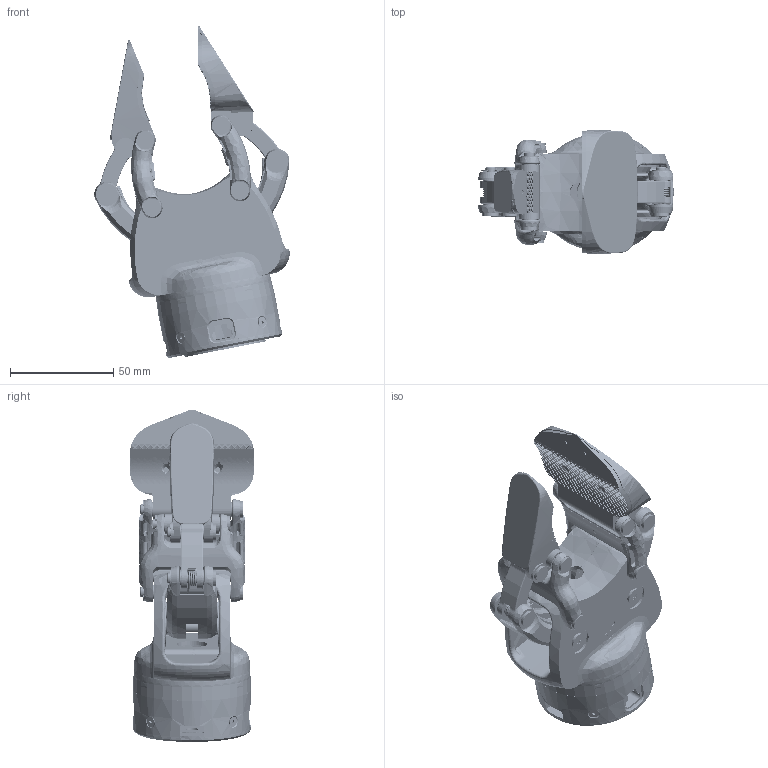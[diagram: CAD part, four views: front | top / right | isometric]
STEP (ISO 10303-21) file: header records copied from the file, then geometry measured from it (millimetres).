
FILE_DESCRIPTION (( 'STEP AP214' ), '1' );
FILE_NAME ('OP1-夥厙耀倰.STEP', '2026-03-16T11:10:02', ( '' ), ( '' ), 'SwSTEP 2.0', 'SolidWorks 2022', '' );
FILE_SCHEMA (( 'AUTOMOTIVE_DESIGN' ));
Length unit declared in the file: millimetre
Products named in the file (49): 220000054701__X2_626d7c27_X0_-0920-_X2_4fee6a21_X0__1; 220000053701__X2_858459345185516d89d2_X0_M2.5-5_X2_5934_X0_5_X2_539a_X0_0.8-0920-_X2_4fee6a21_X0_; 220000054001_JIS B 2804 _X2_4e0d950894a2_X0_E_X2_578b8f74752863215708_X0_-0920-_X2_4fee6a21_X0_; _X2_5bbd624b638c_X0_-_X2_4fee6a21_X0_; 260000001701__X2_591659577b526ce85851_X0__240923-V1-_X2_4fee6a21_X0_; 220000054701__X2_626d7c27_X0_-0920-_X2_4fee6a21_X0__1_1; _X2_4e0a7bb14f53_X0_-2024.09.26-_X2_4fee6a21_X0_; _X2_590d4ef6_X0_ _X2_7a84624b638c8fde6746_X0_^230000190601__X2_7a84624b638c8fde6746_X0_0915-0920-_X2_4fee6a21_X0_; 230000190901__X2_4e2d8fde6746_X0_0915-0920-_X2_4fee6a21_X0_; 220000055201__X2_6df16c9f74038f74627f_X0_C-E696ZZ_X2_ff08_X0_6-15-5_X2_ff09_X0_-0920-_X2_4fee6a21_X0_; _X2_4e0b7bb14f53_X0_-2024.09.26-_X2_4fee6a21_X0_; 260000002301__X2_59168fde6746_X0_-0920-_X2_4fee6a21_X0_; 290000044301__X2_4e2d8fde67467ec44ef6_X0_-0920-_X2_4fee6a21_X0_; OP1-官网模型; _X2_624b638c_X0_.sldasm-Part-1-_X2_4fee6a21_X0_; 290000044401__X2_9f7f69fd59168fde67467ec44ef6_X0_-0920-_X2_4fee6a21_X0_; _X2_624b638c_X0_.sldasm-Part-4-_X2_4fee6a21_X0_; 290000045101__X2_4e0b7bb14f537ec44ef6_X0_-0920-_X2_4fee6a21_X0_; _X2_590d4ef6_X0_ _X2_5bbd624b638c8fde6746_X0_^230000190501__X2_5bbd624b638c8fde6746_X0_0915-0920-_X2_4fee6a21_X0_; 220000054201__X2_5b9a4f4d950053617c27570667f19500_X0_M5-34-0920-_X2_4fee6a21_X0_; _X2_624b638c_X0_.sldasm-Part-2-_X2_4fee6a21_X0_; 230000166201__X2_540e7aef76d6673a52a0_X0_-0920-_X2_4fee6a21_X0_; 290000044601__X2_9f7f987659168fde67467ec44ef6_X0_-0920-_X2_4fee6a21_X0_; _X2_624b638c_X0_.sldasm-Part-3-_X2_4fee6a21_X0_; 220000054901__X2_858459345185516d89d281ea653b87ba4e1d_X0_M2-5_X2_5934_X0_4_X2_539a_X0_0.8-0920-_X2_4fee6a21_X0_; 290000050201__X2_7a84624b638c7ec44ef6_X0_0915-0920-_X2_4fee6a21_X0_; 290000044901__X2_4e0a7bb14f537ec44ef6_X0_-0920-_X2_4fee6a21_X0_; _X2_590d4ef6_X0_ _X2_7a84624b638c8fde67468f6f80f6_X0_^230000190601__X2_7a84624b638c8fde6746_X0_0915-0920-_X2_4fee6a21_X0_; 230000190601__X2_7a84624b638c8fde6746_X0_0915-0920-_X2_4fee6a21_X0_; 230000166301__X2_95008f7476f45f84_X0_4_X2_957f_X0_24-0920-_X2_4fee6a21_X0_; _X2_590d4ef6_X0_ _X2_5bbd624b638c8fde67468f6f80f6_X0_^230000190501__X2_5bbd624b638c8fde6746_X0_0915-0920-_X2_4fee6a21_X0_; 220000054101__X2_5b9a4f4d950053617c27570667f19500_X0_M5-20-0920-_X2_4fee6a21_X0_; 220000054701__X2_626d7c27_X0_-0920-_X2_4fee6a21_X0__1_3; 240000024101__X2_900f5149677f_X0_-_X2_767d827268118102_X0_-0920-_X2_4fee6a21_X0_; 220000054601__X2_5e73593453415b5787ba9489_X0_M3-5_X2_5934_X0_8_X2_539a_X0_0.8-0920-_X2_4fee6a21_X0_; 220000053901_M 2.5-9_X2_5185516d89d26c895934_X0_-0920-_X2_4fee6a21_X0_; 230000166401__X2_95008f7476f45f84_X0_6_X2_957f_X0_35-0920-_X2_4fee6a21_X0_; _X2_7a84624b638c_X0_-_X2_4fee6a21_X0_; 290000049901__X2_5bbd624b638c7ec44ef6_X0_0915-0920-_X2_4fee6a21_X0_; 220000053801__X2_5185516d89d281ea653b87ba4e1d_X0_M3X30-0920-_X2_4fee6a21_X0_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
Assembly tree (100 placements, depth 5):
  OP1-官网模型
    290000044901__X2_4e0a7bb14f537ec44ef6_X0_-0920-_X2_4fee6a21_X0_
      _X2_4e0a7bb14f53_X0_-2024.09.26-_X2_4fee6a21_X0_
      220000053601__X2_6df16c9f74038f74627f_X0_C-E675ZZ_X2_ff08_X0_5-8-2.5_X2_ff09_X0_-0920-_X2_4fee6a21_X0_  x2
      220000055201__X2_6df16c9f74038f74627f_X0_C-E696ZZ_X2_ff08_X0_6-15-5_X2_ff09_X0_-0920-_X2_4fee6a21_X0_  x2
    290000044401__X2_9f7f69fd59168fde67467ec44ef6_X0_-0920-_X2_4fee6a21_X0_
      290000044201__X2_9f7f69fd87178f6e7ec44ef6_X0_-_X2_76f49f7f_X0_-0920-_X2_4fee6a21_X0_
        260000002301__X2_59168fde6746_X0_-0920-_X2_4fee6a21_X0_
        230000166301__X2_95008f7476f45f84_X0_4_X2_957f_X0_24-0920-_X2_4fee6a21_X0_
        230000166401__X2_95008f7476f45f84_X0_6_X2_957f_X0_35-0920-_X2_4fee6a21_X0_
      290000044301__X2_4e2d8fde67467ec44ef6_X0_-0920-_X2_4fee6a21_X0_
        230000190901__X2_4e2d8fde6746_X0_0915-0920-_X2_4fee6a21_X0_
        220000053601__X2_6df16c9f74038f74627f_X0_C-E675ZZ_X2_ff08_X0_5-8-2.5_X2_ff09_X0_-0920-_X2_4fee6a21_X0_  x4
        220000054701__X2_626d7c27_X0_-0920-_X2_4fee6a21_X0__1
          220000054701__X2_626d7c27_X0_-0920-_X2_4fee6a21_X0__1_3
          220000054701__X2_626d7c27_X0_-0920-_X2_4fee6a21_X0_
          220000054701__X2_626d7c27_X0_-0920-_X2_4fee6a21_X0__1_2
          220000054701__X2_626d7c27_X0_-0920-_X2_4fee6a21_X0__1_1
      220000054101__X2_5b9a4f4d950053617c27570667f19500_X0_M5-20-0920-_X2_4fee6a21_X0_
      220000054001_JIS B 2804 _X2_4e0d950894a2_X0_E_X2_578b8f74752863215708_X0_-0920-_X2_4fee6a21_X0_
      220000053501__X2_8c03657457ab7247_X0_5-7-0.5-0920-_X2_4fee6a21_X0_  x2
    290000044601__X2_9f7f987659168fde67467ec44ef6_X0_-0920-_X2_4fee6a21_X0_
      290000044501__X2_9f7f987687178f6e7ec44ef6_X0_-_X2_76f49f7f_X0_-0920-_X2_4fee6a21_X0_
        260000002301__X2_59168fde6746_X0_-0920-_X2_4fee6a21_X0_
        230000166301__X2_95008f7476f45f84_X0_4_X2_957f_X0_24-0920-_X2_4fee6a21_X0_
        230000166401__X2_95008f7476f45f84_X0_6_X2_957f_X0_35-0920-_X2_4fee6a21_X0_
      290000044301__X2_4e2d8fde67467ec44ef6_X0_-0920-_X2_4fee6a21_X0_
        230000190901__X2_4e2d8fde6746_X0_0915-0920-_X2_4fee6a21_X0_
        220000053601__X2_6df16c9f74038f74627f_X0_C-E675ZZ_X2_ff08_X0_5-8-2.5_X2_ff09_X0_-0920-_X2_4fee6a21_X0_  x4
        220000054701__X2_626d7c27_X0_-0920-_X2_4fee6a21_X0__1
          220000054701__X2_626d7c27_X0_-0920-_X2_4fee6a21_X0__1_3
          220000054701__X2_626d7c27_X0_-0920-_X2_4fee6a21_X0_
          220000054701__X2_626d7c27_X0_-0920-_X2_4fee6a21_X0__1_2
          220000054701__X2_626d7c27_X0_-0920-_X2_4fee6a21_X0__1_1
      220000054101__X2_5b9a4f4d950053617c27570667f19500_X0_M5-20-0920-_X2_4fee6a21_X0_
      220000054001_JIS B 2804 _X2_4e0d950894a2_X0_E_X2_578b8f74752863215708_X0_-0920-_X2_4fee6a21_X0_
      220000053501__X2_8c03657457ab7247_X0_5-7-0.5-0920-_X2_4fee6a21_X0_  x2
    290000045101__X2_4e0b7bb14f537ec44ef6_X0_-0920-_X2_4fee6a21_X0_
      220000053601__X2_6df16c9f74038f74627f_X0_C-E675ZZ_X2_ff08_X0_5-8-2.5_X2_ff09_X0_-0920-_X2_4fee6a21_X0_  x2
      220000055201__X2_6df16c9f74038f74627f_X0_C-E696ZZ_X2_ff08_X0_6-15-5_X2_ff09_X0_-0920-_X2_4fee6a21_X0_  x2
      _X2_4e0b7bb14f53_X0_-2024.09.26-_X2_4fee6a21_X0_
    220000053701__X2_858459345185516d89d2_X0_M2.5-5_X2_5934_X0_5_X2_539a_X0_0.8-0920-_X2_4fee6a21_X0_  x4
    220000053801__X2_5185516d89d281ea653b87ba4e1d_X0_M3X30-0920-_X2_4fee6a21_X0_  x4
    220000054601__X2_5e73593453415b5787ba9489_X0_M3-5_X2_5934_X0_8_X2_539a_X0_0.8-0920-_X2_4fee6a21_X0_  x4
    290000049901__X2_5bbd624b638c7ec44ef6_X0_0915-0920-_X2_4fee6a21_X0_
      _X2_5bbd624b638c_X0_-_X2_4fee6a21_X0_
        _X2_624b638c_X0_.sldasm-Part-1-_X2_4fee6a21_X0_
        _X2_624b638c_X0_.sldasm-Part-2-_X2_4fee6a21_X0_
      220000053501__X2_8c03657457ab7247_X0_5-7-0.5-0920-_X2_4fee6a21_X0_  x2
      220000053601__X2_6df16c9f74038f74627f_X0_C-E675ZZ_X2_ff08_X0_5-8-2.5_X2_ff09_X0_-0920-_X2_4fee6a21_X0_  x2
    290000050201__X2_7a84624b638c7ec44ef6_X0_0915-0920-_X2_4fee6a21_X0_
      _X2_7a84624b638c_X0_-_X2_4fee6a21_X0_
        _X2_624b638c_X0_.sldasm-Part-3-_X2_4fee6a21_X0_
        _X2_624b638c_X0_.sldasm-Part-4-_X2_4fee6a21_X0_
      220000053501__X2_8c03657457ab7247_X0_5-7-0.5-0920-_X2_4fee6a21_X0_  x2
      220000053601__X2_6df16c9f74038f74627f_X0_C-E675ZZ_X2_ff08_X0_5-8-2.5_X2_ff09_X0_-0920-_X2_4fee6a21_X0_  x2
    220000054101__X2_5b9a4f4d950053617c27570667f19500_X0_M5-20-0920-_X2_4fee6a21_X0_  x2
    220000054001_JIS B 2804 _X2_4e0d950894a2_X0_E_X2_578b8f74752863215708_X0_-0920-_X2_4fee6a21_X0_  x6
    230000190501__X2_5bbd624b638c8fde6746_X0_0915-0920-_X2_4fee6a21_X0_
      _X2_590d4ef6_X0_ _X2_5bbd624b638c8fde6746_X0_^230000190501__X2_5bbd624b638c8fde6746_X0_0915-0920-_X2_4fee6a21_X0_
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Bounding box: 94.61 x 60.37 x 160.72 mm (x, y, z)
Volume: 153334.7 mm3; surface area: 137222.7 mm2
Topology: 92 solids, 114 shells, 7861 faces, 20520 edges, 13197 vertices
Faces by surface type: plane 3524, cylinder 2041, bspline 1718, cone 556, torus 22
Entity records: 264048 total; most frequent: CARTESIAN_POINT 127252, ORIENTED_EDGE 32830, DIRECTION 20523, EDGE_CURVE 16417, VERTEX_POINT 10664, B_SPLINE_CURVE_WITH_KNOTS 7198, AXIS2_PLACEMENT_3D 6975, EDGE_LOOP 6601
